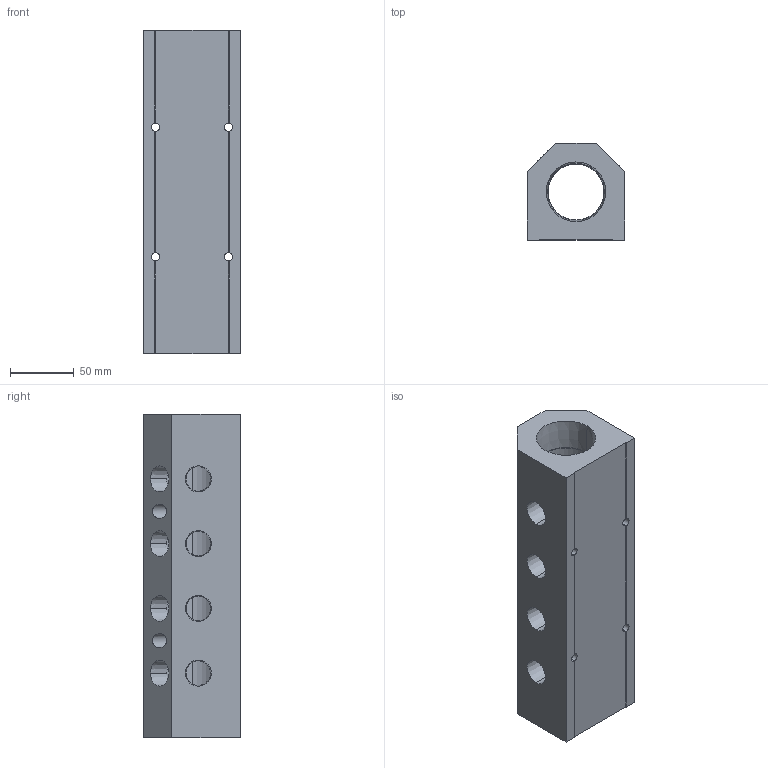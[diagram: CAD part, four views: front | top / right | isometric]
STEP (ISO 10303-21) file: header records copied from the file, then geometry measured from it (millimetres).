
FILE_DESCRIPTION (( 'STEP AP214' ), '1' );
FILE_NAME ('ALM4ABC-N8N24-254B.step', '2022-02-07T09:29:09', ( '' ), ( '' ), 'SwSTEP 2.0', 'SolidWorks 2020', '' );
FILE_SCHEMA (( 'AUTOMOTIVE_DESIGN' ));
Length unit declared in the file: millimetre
Products named in the file (1): ALM4ABC-N8N24-254B
Bounding box: 76.2 x 76.2 x 254 mm (x, y, z)
Volume: 875740.8 mm3; surface area: 124568.5 mm2
Topology: 1 solids, 1 shells, 350 faces, 961 edges, 638 vertices
Faces by surface type: plane 235, bspline 69, cone 28, cylinder 18
Entity records: 19711 total; most frequent: CARTESIAN_POINT 8003, ORIENTED_EDGE 1922, DIRECTION 1375, EDGE_CURVE 961, LINE 691, VECTOR 691, VERTEX_POINT 638, EDGE_LOOP 409
